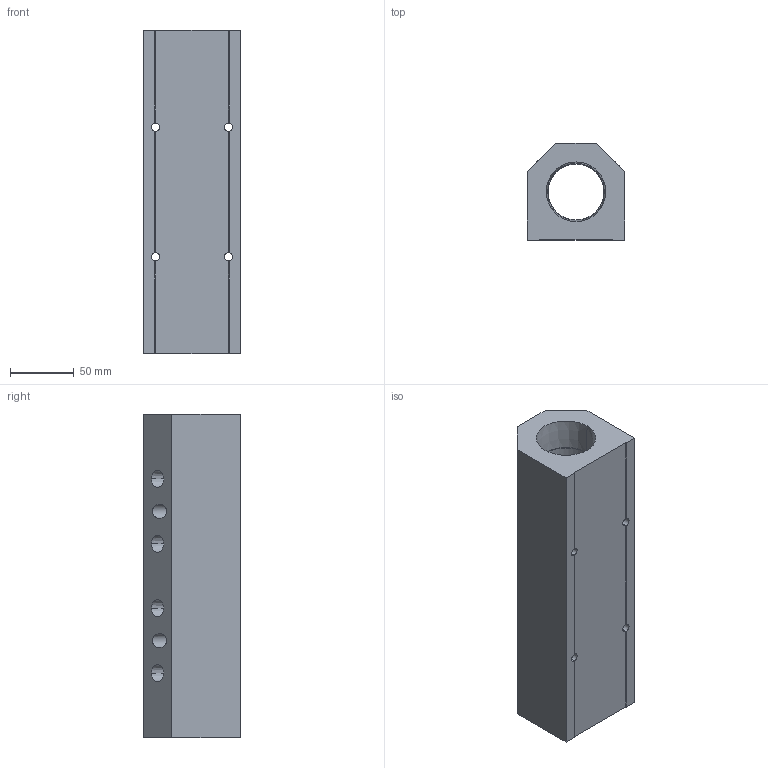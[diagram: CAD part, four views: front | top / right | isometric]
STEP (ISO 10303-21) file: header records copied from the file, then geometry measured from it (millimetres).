
FILE_DESCRIPTION (( 'STEP AP214' ), '1' );
FILE_NAME ('ALM4BD-N4N24-254B.step', '2022-02-07T07:46:16', ( '' ), ( '' ), 'SwSTEP 2.0', 'SolidWorks 2020', '' );
FILE_SCHEMA (( 'AUTOMOTIVE_DESIGN' ));
Length unit declared in the file: millimetre
Products named in the file (1): ALM4BD-N4N24-254B
Bounding box: 76.2 x 76.2 x 254 mm (x, y, z)
Volume: 922117.6 mm3; surface area: 122336.9 mm2
Topology: 1 solids, 1 shells, 328 faces, 865 edges, 574 vertices
Faces by surface type: plane 240, bspline 50, cone 20, cylinder 18
Entity records: 17102 total; most frequent: CARTESIAN_POINT 6210, ORIENTED_EDGE 1730, DIRECTION 1343, EDGE_CURVE 865, LINE 681, VECTOR 681, VERTEX_POINT 574, EDGE_LOOP 389
